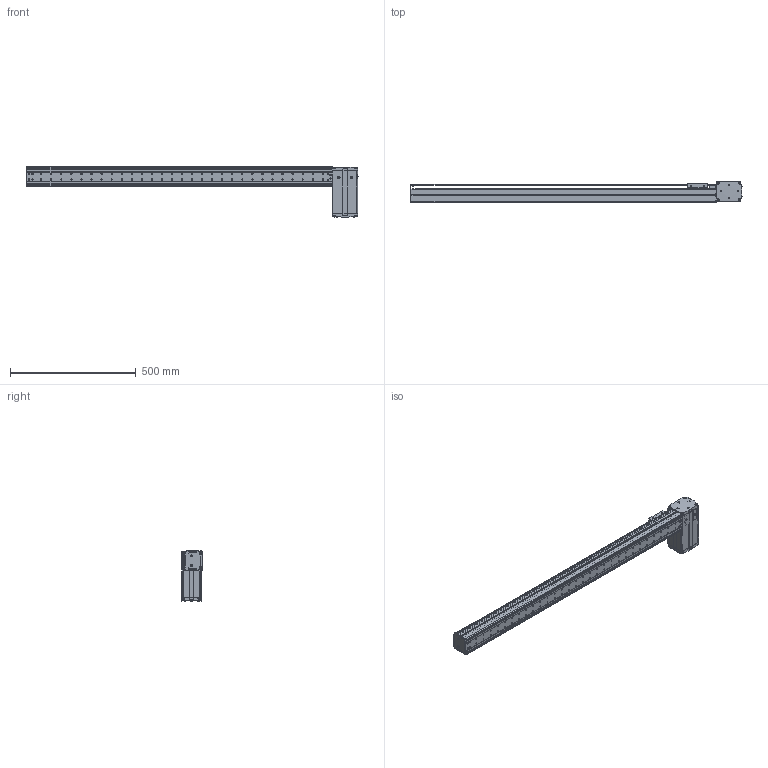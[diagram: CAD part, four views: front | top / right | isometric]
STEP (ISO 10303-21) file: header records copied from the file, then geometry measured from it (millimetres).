
FILE_DESCRIPTION((''),'2;1');
FILE_NAME('BE10_-BL-S_N-A5_IGS_PRT','2017-06-18T',(' '),(''),'PRO/ENGINEER BY PARAMETRIC TECHNOLOGY CORPORATION, 2015030','PRO/ENGINEER BY PARAMETRIC TECHNOLOGY CORPORATION, 2015030','');
FILE_SCHEMA(('CONFIG_CONTROL_DESIGN'));
Products named in the file (1): BE10_-BL-S_N-A5_IGS_PRT
Bounding box: 1320.8 x 82.5 x 200.22 mm (x, y, z)
Volume: 1561506.5 mm3; surface area: 1124196 mm2
Topology: 3 solids, 148 shells, 2106 faces, 5761 edges, 3805 vertices
Faces by surface type: plane 1001, cylinder 942, cone 103, sphere 30, torus 27, bspline 3
Entity records: 68659 total; most frequent: CARTESIAN_POINT 14048, DIRECTION 11590, ORIENTED_EDGE 10910, EDGE_CURVE 5707, AXIS2_PLACEMENT_3D 4167, VERTEX_POINT 3805, VECTOR 3256, LINE 3256
